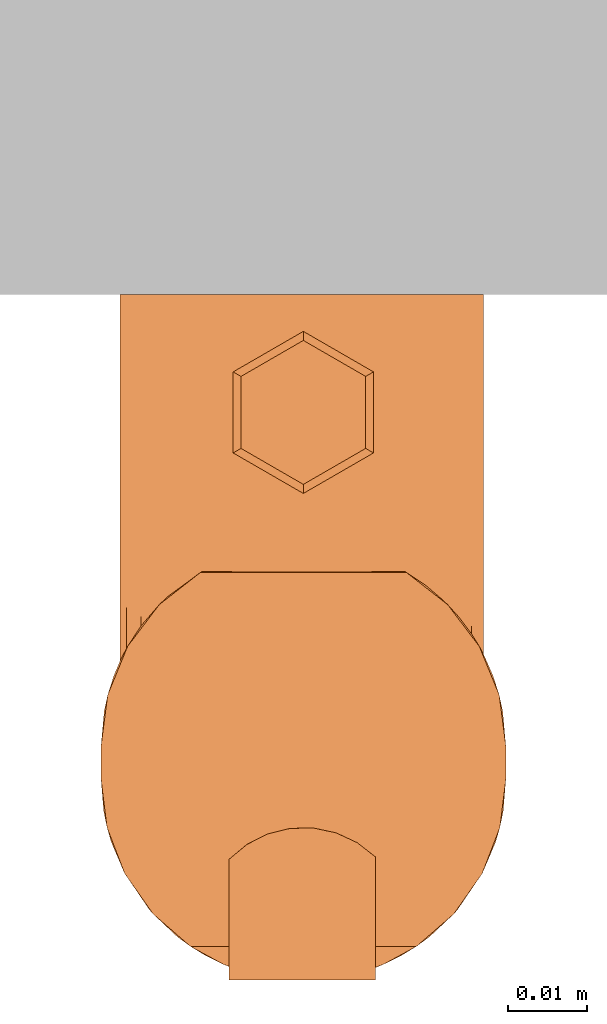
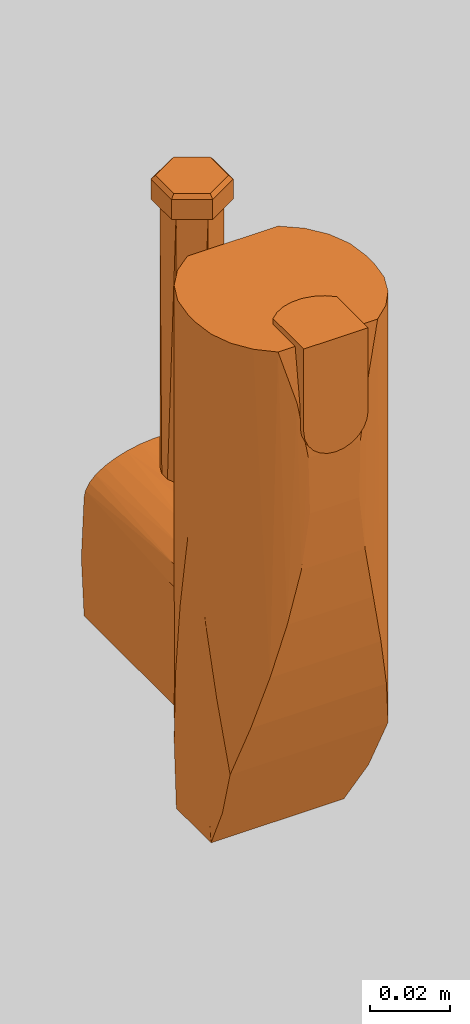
# One storey, part 2 of 2: 1 proxy.
"""IFC2X3 building model written with IfcOpenShell, lengths in millimetres."""

import ifcopenshell
import ifcopenshell.guid

model = None  # the IFC model being written
_history = None  # IfcOwnerHistory: only IFC2X3 demands one
_inside = {}  # id of a spatial element -> (the spatial element, [elements in it])
_under = {}  # id of a project, library or spatial element -> (it, [spatial elements below it])
_declared = {}  # id of a project -> (the project, [libraries it declares])
_typed = {}  # id of a type object -> (the type object, [elements of that type])
_made_of = {}  # id of a material, layer set ... -> (it, [elements and type objects made of it])


def new_model(schema):
    """Start an empty IFC model of exactly this schema.

    Asked for "IFC4X3", IfcOpenShell would pick the latest addendum, in which some entities
    have other attributes; the version numbers below select the first issue.
    IFC2X3 requires an IfcOwnerHistory on every rooted entity: one is made here for all.
    """
    global model, _history
    if schema == "IFC4X3":
        model = ifcopenshell.file(schema_version=(4, 3, 0, 0))
    else:
        model = ifcopenshell.file(schema=schema)
    _inside.clear()
    _under.clear()
    _declared.clear()
    _typed.clear()
    _made_of.clear()
    _history = None
    if model.schema == "IFC2X3":
        org = make("IfcOrganization", Name="unknown")
        user = make(
            "IfcPersonAndOrganization",
            ThePerson=make("IfcPerson", FamilyName="unknown"),
            TheOrganization=org,
        )
        app = make(
            "IfcApplication",
            ApplicationDeveloper=org,
            Version="unknown",
            ApplicationFullName="unknown",
            ApplicationIdentifier="unknown",
        )
        _history = make(
            "IfcOwnerHistory",
            OwningUser=user,
            OwningApplication=app,
            ChangeAction="ADDED",
            CreationDate=0,
        )
    return model


def make(cls, **values):
    """One entity of the class cls with the attributes given. An attribute that is None is left unset."""
    return model.create_entity(
        cls, **{name: value for name, value in values.items() if value is not None}
    )


def entity(cls, *values):
    """Any entity or typed value of the class cls, its attributes in the order of the schema. None: left unset."""
    e = model.create_entity(cls)
    for i, value in enumerate(values):
        if value is not None:
            e[i] = value
    return e


def rooted(cls, **values):
    """An entity with a GlobalId (a new one), such as an element, a storey or a relation."""
    return make(cls, GlobalId=ifcopenshell.guid.new(), OwnerHistory=_history, **values)


def si_unit(unit_type, name, prefix=None):
    """IfcSIUnit, for example si_unit("LENGTHUNIT", "METRE", prefix="MILLI")."""
    return make("IfcSIUnit", UnitType=unit_type, Prefix=prefix, Name=name)


def converted_unit(unit_type, name, factor, base, dimensions=None, offset=None):
    """IfcConversionBasedUnit, such as the inch: factor (a typed value) times the base unit."""
    return make(
        "IfcConversionBasedUnit"
        if offset is None
        else "IfcConversionBasedUnitWithOffset",
        ConversionOffset=offset,
        Dimensions=None
        if dimensions is None
        else entity("IfcDimensionalExponents", *dimensions),
        UnitType=unit_type,
        Name=name,
        ConversionFactor=make(
            "IfcMeasureWithUnit", ValueComponent=factor, UnitComponent=base
        ),
    )


def assignment(units):
    """IfcUnitAssignment: the units of a project."""
    return None if units is None else make("IfcUnitAssignment", Units=units)


def point(xyz):
    """IfcCartesianPoint."""
    return None if xyz is None else make("IfcCartesianPoint", Coordinates=xyz)


def direction(xyz):
    """IfcDirection."""
    return None if xyz is None else make("IfcDirection", DirectionRatios=xyz)


def frame(location, z_axis=None, x_axis=None):
    """IfcAxis2Placement3D, a coordinate frame: its origin and axes. An axis left out is left unset."""
    return make(
        "IfcAxis2Placement3D",
        Location=point(location),
        Axis=direction(z_axis),
        RefDirection=direction(x_axis),
    )


def origin():
    """The frame at (0, 0, 0) with its axes left unset."""
    return frame((0.0, 0.0, 0.0))


def place(relative_to, where):
    """IfcLocalPlacement: puts the frame where relative to a parent placement (None: the world)."""
    return make(
        "IfcLocalPlacement", PlacementRelTo=relative_to, RelativePlacement=where
    )


def context(
    kind, dimensions, precision=None, world=None, true_north=None, identifier=None
):
    """IfcGeometricRepresentationContext, for example the 3D "Model" context."""
    return make(
        "IfcGeometricRepresentationContext",
        ContextIdentifier=identifier,
        ContextType=kind,
        CoordinateSpaceDimension=dimensions,
        Precision=precision,
        WorldCoordinateSystem=world,
        TrueNorth=true_north,
    )


def project(units=None, contexts=None):
    """IfcProject with its units and contexts."""
    return rooted(
        "IfcProject",
        Name="project",
        RepresentationContexts=contexts,
        UnitsInContext=assignment(units),
    )


def spatial(cls, under=None, at=None, **own):
    """A site, building, storey or space (cls), placed at a placement, below another one or the project."""
    s = rooted(cls, ObjectPlacement=at, **own)
    if under is not None:
        _under.setdefault(under.id(), (under, []))[1].append(s)
    return s


def faces_of(points, faces, orient=None, outer=None):
    """IfcFace entities. A face is a list of loops; a loop is a list of indices into points, from 0.

    orient and outer hold one flag for each loop. By default every Orientation is true, the
    first loop of a face is its IfcFaceOuterBound and the others are IfcFaceBound.
    """
    made = []
    for i, loops in enumerate(faces):
        bounds = []
        for j, loop in enumerate(loops):
            is_outer = j == 0 if outer is None else outer[i][j]
            bounds.append(
                make(
                    "IfcFaceOuterBound" if is_outer else "IfcFaceBound",
                    Bound=make("IfcPolyLoop", Polygon=[points[k] for k in loop]),
                    Orientation=True if orient is None else orient[i][j],
                )
            )
        made.append(make("IfcFace", Bounds=bounds))
    return made


def face_set(faces, orient=None, outer=None):
    """The faces of one IfcConnectedFaceSet. surface_model builds it on its shared points."""
    return ("IfcConnectedFaceSet", faces, orient, outer)


def surface_model(cls, points, shells):
    """IfcFaceBasedSurfaceModel or IfcShellBasedSurfaceModel (cls): surfaces that need not close."""
    shared = [point(p) for p in points]
    made = [make(c, CfsFaces=faces_of(shared, fs, o, b)) for c, fs, o, b in shells]
    if cls == "IfcFaceBasedSurfaceModel":
        return make(cls, FbsmFaces=made)
    return make(cls, SbsmBoundary=made)


def shape(context_of_items, identifier, shape_type, items):
    """IfcShapeRepresentation: the items that make up one representation, for example the "Body"."""
    return make(
        "IfcShapeRepresentation",
        ContextOfItems=context_of_items,
        RepresentationIdentifier=identifier,
        RepresentationType=shape_type,
        Items=items,
    )


def source(mapping_origin, context_of_items, identifier, shape_type, items):
    """IfcRepresentationMap: a shape defined once, which mapped items show again and again."""
    return make(
        "IfcRepresentationMap",
        MappingOrigin=mapping_origin,
        MappedRepresentation=shape(context_of_items, identifier, shape_type, items),
    )


def transform(
    local_origin,
    x_axis=None,
    y_axis=None,
    z_axis=None,
    scale=None,
    scale2=None,
    scale3=None,
    uniform=True,
):
    """IfcCartesianTransformationOperator3D, or its non-uniform kind. x_axis, y_axis, z_axis: its Axis1, 2, 3."""
    if uniform:
        return make(
            "IfcCartesianTransformationOperator3D",
            Axis1=direction(x_axis),
            Axis2=direction(y_axis),
            LocalOrigin=point(local_origin),
            Scale=scale,
            Axis3=direction(z_axis),
        )
    return make(
        "IfcCartesianTransformationOperator3DnonUniform",
        Axis1=direction(x_axis),
        Axis2=direction(y_axis),
        LocalOrigin=point(local_origin),
        Scale=scale,
        Axis3=direction(z_axis),
        Scale2=scale2,
        Scale3=scale3,
    )


def mapped(mapping_source, mapping_target):
    """IfcMappedItem: shows the shape of a source again, moved by a transform."""
    return make(
        "IfcMappedItem", MappingSource=mapping_source, MappingTarget=mapping_target
    )


def made_of(thing, what):
    """Note that an element or type object is made of a material, layer set ...; save() writes the relation."""
    if what is not None:
        _made_of.setdefault(what.id(), (what, []))[1].append(thing)
    return thing


def element(
    cls,
    number,
    at=None,
    inside=None,
    cuts=None,
    type_object=None,
    material=None,
    context=None,
    identifier="Body",
    shape_type=None,
    held_by="IfcProductDefinitionShape",
    body=None,
    shapes=None,
    **own,
):
    """One element of the class cls, such as IfcWall. Its Tag is "e" and its number.

    at: its placement. inside: the storey or other place that contains it. cuts: it is an
    opening in that element (IfcRelVoidsElement). A single representation is given by context,
    identifier, shape_type and body (its items); several are given by shapes. held_by: the class
    of the entity that holds the representations. save() writes the other relations.
    """
    e = rooted(cls, Tag="e%d" % number, ObjectPlacement=at, **own)
    if body is not None:
        shapes = [shape(context, identifier, shape_type, body)]
    if shapes is not None:
        e.Representation = make(held_by, Representations=shapes)
    if inside is not None:
        _inside.setdefault(inside.id(), (inside, []))[1].append(e)
    if cuts is not None:
        rooted(
            "IfcRelVoidsElement", RelatingBuildingElement=cuts, RelatedOpeningElement=e
        )
    if type_object is not None:
        _typed.setdefault(type_object.id(), (type_object, []))[1].append(e)
    return made_of(e, material)


def aggregate(whole, parts):
    """IfcRelAggregates: a whole, such as a stair, and the parts it consists of."""
    return rooted("IfcRelAggregates", RelatingObject=whole, RelatedObjects=parts)


def save(model, path):
    """Write the relations noted so far, then the file.

    IfcRelAggregates (storeys below a building ...), IfcRelContainedInSpatialStructure (elements
    in a storey), IfcRelDefinesByType, IfcRelAssociatesMaterial and IfcRelDeclares: one each for
    every whole, place, type object, material and project.
    """
    for whole, parts in _under.values():
        aggregate(whole, parts)
    for where, things in _inside.values():
        rooted(
            "IfcRelContainedInSpatialStructure",
            RelatedElements=things,
            RelatingStructure=where,
        )
    for kind, things in _typed.values():
        rooted("IfcRelDefinesByType", RelatedObjects=things, RelatingType=kind)
    for what, things in _made_of.values():
        rooted("IfcRelAssociatesMaterial", RelatedObjects=things, RelatingMaterial=what)
    for by, libraries in _declared.values():
        rooted("IfcRelDeclares", RelatingContext=by, RelatedDefinitions=libraries)
    model.write(path)


model = new_model("IFC2X3")

# Units and contexts
model_context = context("Model", 3, precision=1e-06, world=origin())
plan_context = context("Plan", 3, precision=1e-06, world=origin())
ifc_project = project(units=[si_unit("LENGTHUNIT", "METRE", prefix="MILLI"), si_unit("AREAUNIT", "SQUARE_METRE", prefix="MILLI"), si_unit("VOLUMEUNIT", "CUBIC_METRE", prefix="MILLI"), converted_unit("PLANEANGLEUNIT", "DEGREE", entity("IfcRatioMeasure", 0.01745329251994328), si_unit("PLANEANGLEUNIT", "RADIAN"), dimensions=[0, 0, 0, 0, 0, 0, 0]), si_unit("TIMEUNIT", "SECOND")], contexts=[model_context, plan_context])

# Site, building, storey
site_placement = place(None, origin())
site = spatial("IfcSite", under=ifc_project, at=site_placement, Name="Default", CompositionType="ELEMENT")
building_placement = place(site_placement, origin())
building = spatial("IfcBuilding", under=site, at=building_placement, CompositionType="ELEMENT")
storey_placement = place(building_placement, origin())
storey = spatial("IfcBuildingStorey", under=building, at=storey_placement, Name="Level 1", CompositionType="ELEMENT", Elevation=0.0)

# Proxy
shared_shape = source(origin(), model_context, "Body", "SurfaceModel", [
    surface_model("IfcFaceBasedSurfaceModel", [(36.57996538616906, 86.68965082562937, 165.8622196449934), (36.57996538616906, 86.68965082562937, 140.7195710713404), (36.26496803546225, 86.68965082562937, 138.3269286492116), (35.34144253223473, 86.68965082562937, 136.0973408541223), (33.87232561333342, 86.68965082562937, 134.1827504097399), (31.95773516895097, 86.6896508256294, 132.7136334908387), (29.7281473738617, 86.6896508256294, 131.7901079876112), (27.33550495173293, 86.68965082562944, 131.4751106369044), (24.94286252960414, 86.68965082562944, 131.7901079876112), (22.71327473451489, 86.68965082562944, 132.7136334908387), (20.79868429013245, 86.68965082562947, 134.18275040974), (19.32956737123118, 86.68965082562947, 136.0973408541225), (18.40604186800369, 86.68965082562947, 138.3269286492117), (18.0910445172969, 86.68965082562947, 140.7195710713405), (18.0910445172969, 86.68965082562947, 165.8622196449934), (18.0910445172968, 71.12669676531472, 165.8622196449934), (20.40419967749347, 69.32540396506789, 165.8622196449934), (23.0619163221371, 68.08771063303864, 165.8622196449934), (25.92926791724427, 67.4764517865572, 165.8622196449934), (28.86068521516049, 67.52265971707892, 165.8622196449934), (31.70734649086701, 68.2239885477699, 165.8622196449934), (34.32473289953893, 69.54483332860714, 165.8622196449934), (36.57996538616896, 71.41813762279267, 165.8622196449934), (18.0910445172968, 71.12669676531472, 140.7195710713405), (18.83390235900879, 70.45381927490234, 137.0887756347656), (20.80158805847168, 69.09202575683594, 134.1798706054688), (23.7523078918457, 67.87777709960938, 132.1977996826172), (31.01773452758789, 67.99049377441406, 132.2400970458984), (33.91752243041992, 69.28852081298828, 134.228271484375), (35.85203170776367, 70.71624755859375, 137.1238708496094), (36.5799674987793, 71.41813659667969, 140.7195892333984), (27.40023994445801, 67.41680145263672, 131.4753112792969), (41.49277961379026, 82.429441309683, 164.1064283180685), (12.88962576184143, 82.42944130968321, 164.1064283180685), (8.176672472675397, 78.33645001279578, 164.1064283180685), (4.594589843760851, 73.22438677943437, 164.1064283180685), (2.356418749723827, 67.39728659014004, 164.1064283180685), (1.595272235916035, 61.20171055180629, 164.1064283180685), (1.595272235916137, 57.20178469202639, 164.1064283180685), (2.451483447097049, 50.63688198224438, 164.1064283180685), (4.962834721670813, 44.51118528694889, 164.1064283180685), (8.961311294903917, 39.2345168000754, 164.1064283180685), (14.1794065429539, 35.15989691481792, 164.1064283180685), (40.20299883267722, 35.15989691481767, 164.1064283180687), (45.42109408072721, 39.23451680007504, 164.1064283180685), (49.4195706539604, 44.5111852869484, 164.1064283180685), (51.9309219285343, 50.63688198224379, 164.1064283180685), (52.78713313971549, 57.20178469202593, 164.1064283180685), (52.78713313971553, 61.20171055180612, 164.1064283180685), (52.02598662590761, 67.39728659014, 164.1064283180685), (49.78781553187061, 73.2243867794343, 164.1064283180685), (46.20573290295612, 78.33645001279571, 164.1064283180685), (40.20299883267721, 35.15989691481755, 89.06697029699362), (14.17940654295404, 35.1598969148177, 89.06697029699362), (40.02912139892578, 35.05817031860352, 81.85443115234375), (40.15971755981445, 35.13440322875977, 85.4560317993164), (36.95004653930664, 35.1599006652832, 89.06700134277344), (18.59724426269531, 35.07780075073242, 82.65525817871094), (20.7159366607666, 35.08951950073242, 83.12259674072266), (20.68530654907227, 35.1599006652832, 89.06700134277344), (27.18778991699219, 35.10165405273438, 83.60941314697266), (29.3643741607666, 35.10186386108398, 83.61922454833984), (27.19120597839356, 35.1599006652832, 89.06700134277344), (17.43235397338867, 35.1599006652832, 89.06700134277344), (35.78503799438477, 35.08012771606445, 82.74172973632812), (14.22427368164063, 35.13347625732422, 85.39070129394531), (14.3598575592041, 35.05436706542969, 81.72057342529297), (33.69710540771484, 35.1599006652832, 89.06700134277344), (30.44415092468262, 35.1599006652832, 89.06700134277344), (31.54095840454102, 35.10207366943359, 83.62895965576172), (33.66299438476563, 35.09109878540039, 83.18531036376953), (22.83463096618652, 35.10124588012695, 83.5898666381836), (25.01121520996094, 35.10144805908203, 83.59967041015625), (23.93825149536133, 35.1599006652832, 89.06700134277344), (8.133840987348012, 57.3466323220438, 1.595272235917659), (46.24856438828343, 57.34663232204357, 1.59527223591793), (46.24856438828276, 40.11469539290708, 1.595272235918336), (41.6415690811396, 36.07505832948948, 1.595272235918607), (36.2065041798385, 33.24607567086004, 1.595272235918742), (30.25482282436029, 31.78986057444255, 1.595272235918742), (24.12758255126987, 31.7898605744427, 1.595272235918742), (18.17590119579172, 33.24607567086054, 1.595272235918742), (12.74083629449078, 36.07505832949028, 1.595272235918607), (8.13384098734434, 40.11469539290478, 1.595272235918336), (1.920654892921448, 65.26998138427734, 75.71941375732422), (1.595275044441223, 61.20171737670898, 97.06346130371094), (1.595275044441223, 57.20177841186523, 97.06346130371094), (2.002790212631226, 52.65256500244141, 73.177490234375), (5.268569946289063, 43.99004745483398, 25.43403816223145), (8.133838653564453, 47.90713119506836, 1.595304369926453), (8.133838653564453, 44.01091384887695, 1.595304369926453), (3.226316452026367, 48.21091079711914, 49.29813385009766), (2.897412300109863, 69.26168823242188, 54.37994766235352), (6.217648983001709, 66.33355712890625, 16.73892974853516), (4.527308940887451, 73.0970687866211, 33.05123138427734), (52.78713313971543, 57.20178469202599, 97.06349326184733), (52.78713313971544, 61.20171055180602, 97.06349326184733), (52.46175765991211, 65.26998138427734, 75.71941375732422), (48.16475296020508, 66.33355712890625, 16.73892974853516), (51.15609359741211, 48.21091079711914, 49.29813385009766), (46.24856185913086, 47.90713119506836, 1.595304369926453), (49.11383056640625, 43.99004745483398, 25.43403816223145), (46.24856185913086, 44.01091384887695, 1.595304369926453), (49.8550910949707, 73.0970687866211, 33.05123138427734), (51.48498916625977, 69.26168823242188, 54.37994766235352), (52.37961959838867, 52.65256500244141, 73.177490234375), (7.70850133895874, 77.80219268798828, 48.89517974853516), (11.2620267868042, 81.23701477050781, 65.0379409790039), (17.07174682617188, 84.71231079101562, 148.3675231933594), (14.83967971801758, 83.6202621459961, 81.338623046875), (19.74090576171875, 85.6893539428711, 131.5806884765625), (18.06321144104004, 85.11470031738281, 97.852294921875), (20.11776351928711, 85.80084991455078, 114.6123123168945), (36.31919860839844, 85.11470031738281, 97.852294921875), (34.64149475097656, 85.6893539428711, 131.5806884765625), (37.31066513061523, 84.71231079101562, 148.3675231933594), (39.54272079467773, 83.6202621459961, 81.338623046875), (43.12037658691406, 81.23701477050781, 65.0379409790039), (34.2646484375, 85.80084991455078, 114.6123123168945), (46.67390823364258, 77.80219268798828, 48.89517974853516), (5.194330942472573, 0.0, 72.77219243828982), (4.404301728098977, 0.0, 54.80934162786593), (5.194330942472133, 0.0, 36.84649081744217), (49.57355735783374, 0.0, 36.84649081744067), (50.36358657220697, 0.0, 54.80934162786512), (49.57355735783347, 0.0, 72.77219243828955), (49.19573702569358, 0.0, 74.80308014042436), (46.24993353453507, 0.0, 78.59057290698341), (40.75617363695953, 0.0, 81.5922611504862), (33.45642004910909, 0.0, 83.4027502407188), (25.33654494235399, 0.0, 83.77752359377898), (17.49318244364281, 0.0, 82.66596599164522), (10.98562211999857, 0.0, 80.2181994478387), (6.692746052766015, 0.0, 76.7648083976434), (5.194328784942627, 44.11403274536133, 72.77220916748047), (4.404305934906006, 45.54379653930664, 54.80673599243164), (5.194328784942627, 44.11403274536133, 36.84649658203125), (49.57355735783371, 44.78478605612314, 36.84649081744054), (46.09905435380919, 39.9493993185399, 36.84649081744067), (41.60136438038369, 36.0476149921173, 36.84649081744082), (36.32387721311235, 33.29057577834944, 36.84649081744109), (30.55218088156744, 31.82747718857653, 36.84649081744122), (24.59860724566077, 31.73749391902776, 36.84649081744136), (18.7853303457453, 33.02549535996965, 36.84649081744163), (13.42693214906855, 35.62178209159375, 36.84649081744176), (8.813379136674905, 39.38585762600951, 36.8464908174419), (50.36358261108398, 46.33015823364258, 54.80847930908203), (49.57355880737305, 44.78478622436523, 72.77220916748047), (48.07514190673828, 7.619590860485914e-07, 76.76484680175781), (47.74072265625, 41.94174575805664, 77.17070770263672), (43.78226089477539, 7.619590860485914e-07, 80.21819305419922), (44.35692596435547, 38.21521759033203, 79.89154052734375), (37.27470016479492, 7.619590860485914e-07, 82.66593933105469), (25.19732284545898, 7.474244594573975, 83.72488403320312), (23.32400894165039, 7.619590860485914e-07, 83.59015655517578), (23.18931579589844, 8.01477336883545, 83.62539672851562), (32.35054779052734, 8.807811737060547, 83.54422760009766), (31.44388008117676, 7.619590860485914e-07, 83.59015655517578), (34.13185119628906, 10.93080139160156, 83.30121612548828), (35.36556243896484, 7.619590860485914e-07, 83.03437042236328), (31.14829444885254, 8.112813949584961, 83.64749145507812), (29.9460334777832, 7.417825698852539, 83.7507553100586), (29.43133926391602, 7.619590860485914e-07, 83.77749633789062), (34.13160705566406, 18.93703460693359, 83.3012924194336), (35.08326721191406, 16.32586669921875, 83.13800048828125), (35.08360290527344, 13.54345989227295, 83.13793182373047), (27.205322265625, 22.93371200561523, 83.82429504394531), (29.94538879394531, 22.4498291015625, 83.7507553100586), (32.3477668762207, 21.06194114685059, 83.54459381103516), (28.5756778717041, 7.17577075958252, 83.78752899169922), (21.72901153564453, 9.481553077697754, 83.43325805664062), (19.20535659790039, 14.95502948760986, 83.0465087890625), (20.28751182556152, 18.95164108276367, 83.24424743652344), (27.205322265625, 6.933707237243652, 83.82429504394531), (27.38394355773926, 7.619590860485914e-07, 83.77749633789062), (21.31146812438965, 7.619590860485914e-07, 83.40274047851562), (19.40232849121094, 7.619590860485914e-07, 83.03437042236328), (23.2094898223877, 21.86431884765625, 83.62735748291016), (8.517953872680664, 7.619590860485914e-07, 78.59060668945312), (7.497240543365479, 40.85248565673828, 77.67525482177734), (5.57214879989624, 7.619590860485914e-07, 74.80304718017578), (5.960770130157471, 42.90422058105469, 75.6519775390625), (14.01171398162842, 7.619590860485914e-07, 81.59223937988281), (11.71645927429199, 36.81344985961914, 80.59891510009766), (20.26870918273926, 10.94832420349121, 83.24105072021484), (9.447484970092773, 38.75423049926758, 79.2791519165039), (27.2053260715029, 24.03371021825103, 171.7952758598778), (19.32449566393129, 19.48371066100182, 171.7952758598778), (19.32449566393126, 10.38371154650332, 171.7952758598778), (27.20532607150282, 5.833711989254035, 171.7952758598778), (27.20532607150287, 14.93371110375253, 171.7952758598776), (35.08615647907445, 10.38371154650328, 171.7952758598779), (35.08615647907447, 19.48371066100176, 171.7952758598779), (18.33322525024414, 9.811402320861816, 170.6506805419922), (27.205322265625, 4.68909502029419, 170.6506805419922), (18.33322525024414, 20.05601692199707, 170.6506805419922), (27.205322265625, 25.17832374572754, 170.6506805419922), (36.07742691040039, 20.05601692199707, 170.6506805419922), (36.07742691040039, 9.811402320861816, 170.6506805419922), (18.33322525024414, 9.811402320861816, 164.6319427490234), (27.205322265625, 4.68909502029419, 164.6319427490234), (18.33322525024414, 20.05601692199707, 164.6319427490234), (27.205322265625, 25.17832374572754, 164.6319427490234), (36.07742691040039, 20.05601692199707, 164.6319427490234), (36.07742691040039, 9.811402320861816, 164.6319427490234), (20.27712059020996, 10.93370819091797, 163.4962463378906), (27.205322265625, 6.933707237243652, 163.4962463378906), (20.27712059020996, 18.9337100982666, 163.4962463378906), (27.205322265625, 22.93371200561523, 163.4962463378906), (34.1335334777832, 18.9337100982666, 163.4962463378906), (34.1335334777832, 10.93370819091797, 163.4962463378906), (38.35619354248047, 84.14159393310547, 152.30224609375), (16.02621650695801, 84.14159393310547, 152.30224609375), (39.40172576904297, 83.57087707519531, 156.2369537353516), (14.98068618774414, 83.57087707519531, 156.2369537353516), (47.68119812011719, 42.05237579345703, 13.51463508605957), (47.8363037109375, 42.36709213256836, 36.84649658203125), (48.39751434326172, 43.02121353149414, 19.47437286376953), (48.70493698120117, 43.5759391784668, 36.84649658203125), (41.98672485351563, 36.48620986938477, 80.966552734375), (13.85493755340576, 35.39037322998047, 81.50634002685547), (14.10739326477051, 35.22237014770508, 81.61345672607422), (41.0079231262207, 35.77219009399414, 81.41049194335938), (11.12015724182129, 37.50381469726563, 36.84649658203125), (10.43734073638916, 38.09487915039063, 1.595304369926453), (49.13924789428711, 44.18036270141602, 36.84649658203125), (49.36911392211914, 44.51765823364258, 28.41706848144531), (40.27381896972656, 35.23667526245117, 81.74339294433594), (49.6244010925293, 45.04526901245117, 31.40009880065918), (49.96857452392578, 45.55747604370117, 45.82748794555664), (4.247438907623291, 46.10048294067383, 37.36608505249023), (50.64552307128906, 47.15569686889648, 43.33207321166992), (15.45836448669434, 34.66056823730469, 1.595304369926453), (13.35000801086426, 35.72637939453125, 81.29203796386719), (40.51852798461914, 35.41518020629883, 81.6324234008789), (16.10613632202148, 34.32364273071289, 36.84649658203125), (4.75800895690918, 45.04526901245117, 31.40009880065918), (4.799312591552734, 44.82891464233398, 45.82661437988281), (6.09909725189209, 42.93199157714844, 36.84649658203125), (5.98488712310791, 43.02121353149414, 19.47437286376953), (50.13496398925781, 46.10048294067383, 37.36608505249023), (6.701204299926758, 42.05237579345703, 13.51463508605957), (7.003856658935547, 41.74994277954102, 36.84649658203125)], [face_set([[[0, 1, 2, 3, 4, 5, 6, 7, 8, 9, 10, 11, 12, 13, 14]], [[0, 14, 15, 16, 17, 18, 19, 20, 21, 22]], [[14, 15, 23, 13]], [[23, 13, 12]], [[24, 11, 10]], [[12, 11, 23]], [[10, 9, 24]], [[23, 11, 24]], [[25, 24, 8]], [[26, 25, 27]], [[7, 25, 8]], [[28, 25, 7]], [[9, 8, 24]], [[29, 6, 5]], [[29, 4, 3]], [[5, 4, 29]], [[3, 2, 30]], [[26, 27, 31]], [[28, 27, 25]], [[3, 30, 29]], [[29, 28, 6]], [[30, 2, 1]], [[28, 7, 6]], [[1, 0, 22, 30]], [[22, 21, 29]], [[20, 19, 27]], [[21, 20, 28]], [[30, 22, 29]], [[29, 21, 28]], [[20, 27, 28]], [[19, 31, 27]], [[26, 18, 17]], [[25, 17, 16]], [[24, 16, 15]], [[31, 18, 26]], [[16, 24, 25]], [[25, 26, 17]], [[24, 15, 23]], [[18, 31, 19]]]), face_set([[[32, 33, 34, 35, 36, 37, 38, 39, 40, 41, 42, 43, 44, 45, 46, 47, 48, 49, 50, 51]], [[43, 52, 53, 42]], [[54, 55, 56]], [[57, 58, 59]], [[60, 61, 62]], [[57, 59, 63]], [[54, 56, 64]], [[63, 65, 66]], [[67, 68, 69]], [[70, 67, 69]], [[53, 65, 63]], [[71, 72, 73]], [[68, 62, 61]], [[72, 60, 62]], [[55, 52, 56]], [[73, 59, 71]], [[73, 72, 62]], [[61, 69, 68]], [[70, 64, 67]], [[58, 71, 59]], [[66, 57, 63]], [[56, 67, 64]], [[74, 75, 76, 77, 78, 79, 80, 81, 82, 83]], [[84, 74, 85]], [[85, 74, 86]], [[87, 86, 74]], [[88, 89, 90, 83]], [[91, 89, 88]], [[84, 92, 93]], [[93, 74, 84]], [[87, 74, 91]], [[89, 91, 74]], [[93, 92, 94]], [[38, 86, 85, 37]], [[48, 47, 95, 96]], [[97, 75, 98]], [[99, 100, 75]], [[101, 100, 99]], [[101, 76, 102, 100]], [[98, 103, 104]], [[96, 75, 97]], [[75, 96, 95]], [[105, 99, 75]], [[75, 95, 105]], [[98, 104, 97]], [[84, 85, 37]], [[84, 37, 36]], [[92, 36, 35]], [[84, 36, 92]], [[94, 92, 35]], [[106, 94, 35]], [[35, 34, 106]], [[107, 34, 33]], [[33, 108, 109]], [[110, 111, 108]], [[107, 33, 109]], [[111, 109, 108]], [[112, 111, 110]], [[34, 107, 106]], [[113, 114, 115]], [[116, 115, 32]], [[117, 32, 51]], [[118, 114, 113]], [[113, 115, 116]], [[32, 117, 116]], [[51, 119, 117]], [[104, 50, 49]], [[49, 48, 97]], [[96, 97, 48]], [[119, 50, 103]], [[103, 50, 104]], [[49, 97, 104]], [[50, 119, 51]], [[120, 121, 122, 123, 124, 125, 126, 127, 128, 129, 130, 131, 132, 133]], [[120, 134, 121]], [[121, 134, 135]], [[136, 122, 121]], [[136, 121, 135]], [[123, 137, 138, 139, 140, 141, 142, 143, 144, 145, 136, 122]], [[124, 123, 137]], [[124, 137, 146]], [[124, 147, 125]], [[147, 124, 146]], [[125, 147, 126]], [[148, 149, 127]], [[148, 126, 149]], [[150, 127, 151]], [[152, 54, 128]], [[153, 154, 155]], [[156, 129, 157]], [[158, 159, 129]], [[157, 160, 156]], [[161, 157, 162]], [[163, 70, 64]], [[54, 128, 150]], [[154, 153, 130]], [[158, 129, 156]], [[164, 64, 152]], [[150, 151, 54]], [[165, 164, 152]], [[149, 151, 127]], [[166, 61, 167]], [[126, 147, 149]], [[157, 161, 160]], [[54, 152, 64]], [[168, 167, 69]], [[166, 60, 61]], [[69, 70, 168]], [[64, 164, 163]], [[165, 159, 158]], [[161, 162, 169]], [[154, 170, 155]], [[171, 57, 172]], [[173, 130, 153]], [[130, 173, 174]], [[154, 175, 170]], [[176, 131, 171]], [[177, 60, 166]], [[133, 178, 179]], [[180, 133, 181]], [[132, 182, 183]], [[169, 174, 173]], [[184, 175, 176]], [[178, 132, 185]], [[182, 66, 131]], [[168, 70, 163]], [[165, 152, 159]], [[120, 180, 134]], [[175, 184, 170]], [[176, 171, 184]], [[177, 58, 71]], [[177, 71, 60]], [[177, 172, 58]], [[61, 69, 167]], [[131, 57, 171]], [[174, 169, 162]], [[131, 66, 57]], [[66, 183, 182]], [[178, 185, 179]], [[183, 185, 132]], [[133, 179, 181]], [[172, 57, 58]], [[181, 134, 180]], [[186, 187, 188, 189, 190]], [[190, 189, 191, 192, 186]], [[189, 188, 193]], [[193, 194, 189]], [[195, 193, 188, 187]], [[187, 186, 196]], [[196, 195, 187]], [[186, 192, 197]], [[197, 196, 186]], [[198, 197, 192, 191]], [[191, 189, 194]], [[194, 198, 191]], [[194, 193, 199, 200]], [[201, 199, 193, 195]], [[201, 202, 196, 195]], [[202, 203, 197, 196]], [[204, 203, 197, 198]], [[198, 194, 200, 204]], [[205, 199, 200]], [[200, 206, 205]], [[201, 199, 205, 207]], [[208, 202, 201]], [[201, 207, 208]], [[209, 203, 202]], [[202, 208, 209]], [[204, 203, 209, 210]], [[206, 200, 204]], [[204, 210, 206]], [[206, 205, 155]], [[155, 173, 206]], [[184, 155, 205]], [[205, 171, 184]], [[208, 207, 177]], [[166, 208, 177]], [[207, 172, 171]], [[177, 207, 172]], [[207, 171, 205]], [[208, 166, 167]], [[209, 208, 167]], [[168, 209, 167]], [[209, 168, 163]], [[209, 163, 164]], [[209, 165, 164]], [[161, 210, 206]], [[161, 206, 173]], [[165, 210, 158]], [[158, 210, 156]], [[210, 161, 156]], [[210, 165, 209]], [[93, 98, 75, 74]], [[106, 119, 103, 94]], [[94, 103, 98, 93]], [[107, 117, 119, 106]], [[117, 107, 109, 116]], [[111, 113, 116, 109]], [[211, 108, 212, 213]], [[115, 114, 110, 108]], [[115, 108, 211]], [[113, 111, 112, 118]], [[114, 118, 112, 110]], [[32, 213, 214, 33]], [[212, 214, 213]], [[138, 215, 216]], [[216, 217, 218]], [[146, 46, 45]], [[47, 46, 105]], [[47, 105, 95]], [[99, 105, 46]], [[147, 146, 45]], [[45, 149, 147]], [[44, 43, 219]], [[220, 221, 53]], [[52, 222, 43]], [[82, 223, 224]], [[149, 44, 151]], [[44, 219, 151]], [[225, 101, 226]], [[227, 52, 55]], [[219, 43, 222]], [[226, 137, 225]], [[44, 149, 45]], [[137, 226, 228]], [[137, 228, 229]], [[146, 99, 46]], [[135, 91, 230]], [[146, 231, 99]], [[217, 101, 218]], [[144, 82, 232]], [[76, 138, 77]], [[76, 215, 138]], [[233, 220, 53]], [[234, 222, 52]], [[140, 141, 78]], [[139, 140, 77]], [[77, 140, 78]], [[79, 142, 80]], [[79, 78, 141]], [[142, 79, 141]], [[81, 235, 232]], [[139, 77, 138]], [[236, 136, 237]], [[238, 88, 239]], [[55, 54, 227]], [[227, 234, 52]], [[42, 183, 233]], [[42, 233, 53]], [[101, 225, 218]], [[221, 66, 65]], [[41, 185, 183]], [[146, 240, 231]], [[183, 42, 41]], [[240, 146, 229]], [[134, 181, 40]], [[38, 87, 39]], [[41, 179, 185]], [[41, 40, 179]], [[86, 87, 38]], [[179, 40, 181]], [[91, 40, 39]], [[230, 237, 135]], [[238, 241, 242]], [[223, 145, 224]], [[53, 221, 65]], [[242, 241, 83]], [[144, 232, 235]], [[143, 81, 80]], [[235, 81, 143]], [[82, 144, 223]], [[80, 142, 143]], [[134, 40, 135]], [[91, 39, 87]], [[40, 91, 135]], [[145, 83, 224]], [[216, 215, 217]], [[237, 230, 236]], [[136, 236, 88]], [[242, 83, 145]], [[136, 88, 238]], [[228, 240, 229]], [[238, 239, 241]]])]),
])
proxy_placement = place(storey_placement, frame((-56.22935619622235, -958.2318181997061, 1110.897446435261), z_axis=(0.0, 0.0, 1.0), x_axis=(-1.0, 0.0, 0.0)))
element("IfcBuildingElementProxy", 1, at=proxy_placement, inside=storey, Name="479406:Type 1:Type 1", ObjectType="Type 1", CompositionType="ELEMENT", context=model_context, shape_type="MappedRepresentation", body=[
    mapped(shared_shape, transform((0.0, 0.0, 0.0), scale=1.0)),
])

save(model, "model.ifc")
